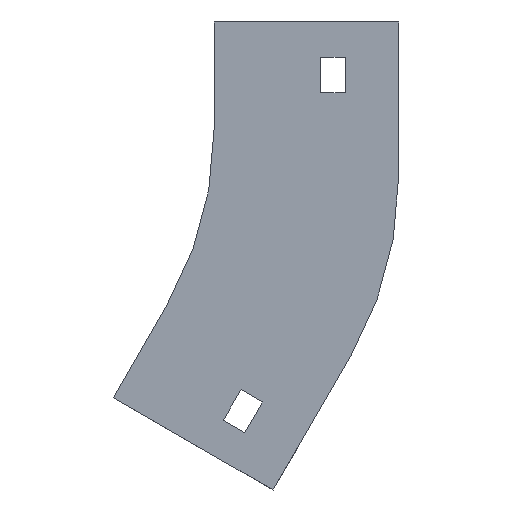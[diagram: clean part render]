
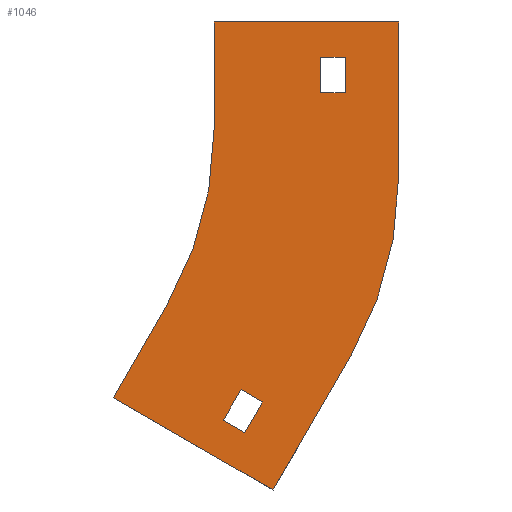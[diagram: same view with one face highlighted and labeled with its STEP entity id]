
A CAD part, left-side view. The second image highlights one B-rep face of the part: STEP entity #1046.
In plain terms, the highlighted planar face has unit normal (-1, 0, 0).
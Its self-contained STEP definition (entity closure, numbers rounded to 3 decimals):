
#10 = ORIENTED_EDGE ( 'NONE', *, *, #604, .T. ) ;
#14 = CARTESIAN_POINT ( 'NONE',  ( -302., -30., -20. ) ) ;
#27 = LINE ( 'NONE', #898, #666 ) ;
#32 = ORIENTED_EDGE ( 'NONE', *, *, #1066, .F. ) ;
#43 = EDGE_CURVE ( 'NONE', #1039, #770, #1087, .T. ) ;
#45 = CARTESIAN_POINT ( 'NONE',  ( -302., 13.397, -80. ) ) ;
#57 = VERTEX_POINT ( 'NONE', #426 ) ;
#83 = EDGE_LOOP ( 'NONE', ( #1317, #671, #1119, #98, #395, #1162, #931, #32 ) ) ;
#88 = VECTOR ( 'NONE', #1407, 1000. ) ;
#98 = ORIENTED_EDGE ( 'NONE', *, *, #950, .F. ) ;
#99 = LINE ( 'NONE', #1183, #831 ) ;
#102 = EDGE_CURVE ( 'NONE', #718, #594, #323, .T. ) ;
#113 = VERTEX_POINT ( 'NONE', #546 ) ;
#130 = CARTESIAN_POINT ( 'NONE',  ( -302., -30., -10. ) ) ;
#160 = FACE_BOUND ( 'NONE', #1049, .T. ) ;
#161 = CARTESIAN_POINT ( 'NONE',  ( -302., -37., -20. ) ) ;
#162 = VERTEX_POINT ( 'NONE', #1325 ) ;
#175 = EDGE_CURVE ( 'NONE', #830, #1039, #811, .T. ) ;
#179 = DIRECTION ( 'NONE',  ( 1., 0., 0. ) ) ;
#192 = EDGE_CURVE ( 'NONE', #113, #528, #1149, .T. ) ;
#209 = DIRECTION ( 'NONE',  ( 0., 0., -1. ) ) ;
#212 = VECTOR ( 'NONE', #980, 1000. ) ;
#215 = DIRECTION ( 'NONE',  ( 0., 0., -1. ) ) ;
#223 = EDGE_CURVE ( 'NONE', #57, #719, #1164, .T. ) ;
#233 = LINE ( 'NONE', #130, #1405 ) ;
#257 = CARTESIAN_POINT ( 'NONE',  ( -302., -52., -43.933 ) ) ;
#267 = CARTESIAN_POINT ( 'NONE',  ( -302., 0., 0. ) ) ;
#283 = CARTESIAN_POINT ( 'NONE',  ( -302., -38.603, -93.933 ) ) ;
#304 = ORIENTED_EDGE ( 'NONE', *, *, #223, .F. ) ;
#320 = CARTESIAN_POINT ( 'NONE',  ( -302., 100., -30. ) ) ;
#323 = LINE ( 'NONE', #14, #1242 ) ;
#327 = ORIENTED_EDGE ( 'NONE', *, *, #1224, .F. ) ;
#333 = CARTESIAN_POINT ( 'NONE',  ( -302., -37., -10. ) ) ;
#334 = CARTESIAN_POINT ( 'NONE',  ( -302., -7.583, -103.66 ) ) ;
#341 = CARTESIAN_POINT ( 'NONE',  ( -302., 13.397, -80. ) ) ;
#357 = VERTEX_POINT ( 'NONE', #457 ) ;
#378 = FACE_BOUND ( 'NONE', #452, .T. ) ;
#383 = ORIENTED_EDGE ( 'NONE', *, *, #192, .F. ) ;
#384 = LINE ( 'NONE', #45, #1069 ) ;
#385 = VECTOR ( 'NONE', #895, 1000. ) ;
#391 = CARTESIAN_POINT ( 'NONE',  ( -302., 100., -30. ) ) ;
#392 = CARTESIAN_POINT ( 'NONE',  ( -302., -8.645, -115.821 ) ) ;
#393 = EDGE_CURVE ( 'NONE', #770, #1136, #27, .T. ) ;
#395 = ORIENTED_EDGE ( 'NONE', *, *, #393, .F. ) ;
#426 = CARTESIAN_POINT ( 'NONE',  ( -302., -8.645, -115.821 ) ) ;
#452 = EDGE_LOOP ( 'NONE', ( #813, #383, #327, #304 ) ) ;
#454 = VERTEX_POINT ( 'NONE', #675 ) ;
#457 = CARTESIAN_POINT ( 'NONE',  ( -302., 0., -30. ) ) ;
#513 = CARTESIAN_POINT ( 'NONE',  ( -302., 48., -43.933 ) ) ;
#528 = VERTEX_POINT ( 'NONE', #852 ) ;
#542 = CARTESIAN_POINT ( 'NONE',  ( -302., -52., 0. ) ) ;
#546 = CARTESIAN_POINT ( 'NONE',  ( -302., -7.583, -103.66 ) ) ;
#549 = LINE ( 'NONE', #334, #212 ) ;
#556 = VECTOR ( 'NONE', #937, 1000. ) ;
#590 = CARTESIAN_POINT ( 'NONE',  ( -302., -16.636, -131.981 ) ) ;
#594 = VERTEX_POINT ( 'NONE', #929 ) ;
#604 = EDGE_CURVE ( 'NONE', #162, #1376, #651, .T. ) ;
#636 = DIRECTION ( 'NONE',  ( -1., 0., 0. ) ) ;
#638 = VECTOR ( 'NONE', #1148, 1000. ) ;
#640 = VERTEX_POINT ( 'NONE', #542 ) ;
#651 = LINE ( 'NONE', #1071, #1354 ) ;
#663 = DIRECTION ( 'NONE',  ( 0., 0., 1. ) ) ;
#666 = VECTOR ( 'NONE', #1109, 1000. ) ;
#671 = ORIENTED_EDGE ( 'NONE', *, *, #840, .F. ) ;
#675 = CARTESIAN_POINT ( 'NONE',  ( -302., 0., 0. ) ) ;
#690 = LINE ( 'NONE', #267, #1167 ) ;
#706 = DIRECTION ( 'NONE',  ( 0., 0., 1. ) ) ;
#709 = DIRECTION ( 'NONE',  ( 0., -0.5, 0.866 ) ) ;
#718 = VERTEX_POINT ( 'NONE', #161 ) ;
#719 = VERTEX_POINT ( 'NONE', #1344 ) ;
#720 = DIRECTION ( 'NONE',  ( 0., 0., -1. ) ) ;
#723 = AXIS2_PLACEMENT_3D ( 'NONE', #320, #636, #215 ) ;
#743 = EDGE_CURVE ( 'NONE', #454, #640, #779, .T. ) ;
#750 = EDGE_CURVE ( 'NONE', #594, #162, #233, .T. ) ;
#763 = DIRECTION ( 'NONE',  ( 0., 1., 0. ) ) ;
#770 = VERTEX_POINT ( 'NONE', #590 ) ;
#779 = LINE ( 'NONE', #1205, #385 ) ;
#811 = CIRCLE ( 'NONE', #986, 100. ) ;
#813 = ORIENTED_EDGE ( 'NONE', *, *, #918, .F. ) ;
#819 = CIRCLE ( 'NONE', #723, 100. ) ;
#830 = VERTEX_POINT ( 'NONE', #257 ) ;
#831 = VECTOR ( 'NONE', #209, 1000. ) ;
#833 = DIRECTION ( 'NONE',  ( 0., -0.5, 0.866 ) ) ;
#840 = EDGE_CURVE ( 'NONE', #357, #454, #690, .T. ) ;
#852 = CARTESIAN_POINT ( 'NONE',  ( -302., -2.583, -112.321 ) ) ;
#895 = DIRECTION ( 'NONE',  ( 0., -1., 0. ) ) ;
#898 = CARTESIAN_POINT ( 'NONE',  ( -302., 28.397, -105.981 ) ) ;
#918 = EDGE_CURVE ( 'NONE', #528, #57, #1025, .T. ) ;
#929 = CARTESIAN_POINT ( 'NONE',  ( -302., -30., -20. ) ) ;
#931 = ORIENTED_EDGE ( 'NONE', *, *, #175, .F. ) ;
#935 = FACE_OUTER_BOUND ( 'NONE', #83, .T. ) ;
#937 = DIRECTION ( 'NONE',  ( 0., 0.5, -0.866 ) ) ;
#942 = CARTESIAN_POINT ( 'NONE',  ( -302., -2.583, -112.321 ) ) ;
#950 = EDGE_CURVE ( 'NONE', #1136, #1232, #384, .T. ) ;
#952 = AXIS2_PLACEMENT_3D ( 'NONE', #391, #1355, #720 ) ;
#956 = CARTESIAN_POINT ( 'NONE',  ( -302., 28.397, -105.981 ) ) ;
#961 = LINE ( 'NONE', #1293, #1157 ) ;
#965 = DIRECTION ( 'NONE',  ( 0., -1., 0. ) ) ;
#980 = DIRECTION ( 'NONE',  ( 0., 0.866, 0.5 ) ) ;
#986 = AXIS2_PLACEMENT_3D ( 'NONE', #513, #179, #1122 ) ;
#1025 = LINE ( 'NONE', #1351, #638 ) ;
#1039 = VERTEX_POINT ( 'NONE', #283 ) ;
#1046 = ADVANCED_FACE ( 'NONE', ( #935, #160, #378 ), #1365, .F. ) ;
#1049 = EDGE_LOOP ( 'NONE', ( #1303, #10, #1287, #1067 ) ) ;
#1066 = EDGE_CURVE ( 'NONE', #640, #830, #961, .T. ) ;
#1067 = ORIENTED_EDGE ( 'NONE', *, *, #102, .T. ) ;
#1069 = VECTOR ( 'NONE', #709, 1000. ) ;
#1071 = CARTESIAN_POINT ( 'NONE',  ( -302., -30., -10. ) ) ;
#1087 = LINE ( 'NONE', #1097, #88 ) ;
#1097 = CARTESIAN_POINT ( 'NONE',  ( -302., -16.636, -131.981 ) ) ;
#1109 = DIRECTION ( 'NONE',  ( 0., 0.866, 0.5 ) ) ;
#1119 = ORIENTED_EDGE ( 'NONE', *, *, #1145, .F. ) ;
#1122 = DIRECTION ( 'NONE',  ( 0., 0., 1. ) ) ;
#1136 = VERTEX_POINT ( 'NONE', #956 ) ;
#1145 = EDGE_CURVE ( 'NONE', #1232, #357, #819, .T. ) ;
#1148 = DIRECTION ( 'NONE',  ( 0., -0.866, -0.5 ) ) ;
#1149 = LINE ( 'NONE', #942, #556 ) ;
#1157 = VECTOR ( 'NONE', #1285, 1000. ) ;
#1162 = ORIENTED_EDGE ( 'NONE', *, *, #43, .F. ) ;
#1164 = LINE ( 'NONE', #392, #1211 ) ;
#1167 = VECTOR ( 'NONE', #706, 1000. ) ;
#1180 = EDGE_CURVE ( 'NONE', #1376, #718, #99, .T. ) ;
#1183 = CARTESIAN_POINT ( 'NONE',  ( -302., -37., -10. ) ) ;
#1205 = CARTESIAN_POINT ( 'NONE',  ( -302., -52., 0. ) ) ;
#1211 = VECTOR ( 'NONE', #833, 1000. ) ;
#1224 = EDGE_CURVE ( 'NONE', #719, #113, #549, .T. ) ;
#1232 = VERTEX_POINT ( 'NONE', #341 ) ;
#1242 = VECTOR ( 'NONE', #763, 1000. ) ;
#1285 = DIRECTION ( 'NONE',  ( 0., 0., -1. ) ) ;
#1287 = ORIENTED_EDGE ( 'NONE', *, *, #1180, .T. ) ;
#1293 = CARTESIAN_POINT ( 'NONE',  ( -302., -52., -43.933 ) ) ;
#1303 = ORIENTED_EDGE ( 'NONE', *, *, #750, .T. ) ;
#1317 = ORIENTED_EDGE ( 'NONE', *, *, #743, .F. ) ;
#1325 = CARTESIAN_POINT ( 'NONE',  ( -302., -30., -10. ) ) ;
#1344 = CARTESIAN_POINT ( 'NONE',  ( -302., -13.645, -107.16 ) ) ;
#1351 = CARTESIAN_POINT ( 'NONE',  ( -302., -2.583, -112.321 ) ) ;
#1354 = VECTOR ( 'NONE', #965, 1000. ) ;
#1355 = DIRECTION ( 'NONE',  ( 1., 0., 0. ) ) ;
#1365 = PLANE ( 'NONE',  #952 ) ;
#1376 = VERTEX_POINT ( 'NONE', #333 ) ;
#1405 = VECTOR ( 'NONE', #663, 1000. ) ;
#1407 = DIRECTION ( 'NONE',  ( 0., 0.5, -0.866 ) ) ;
